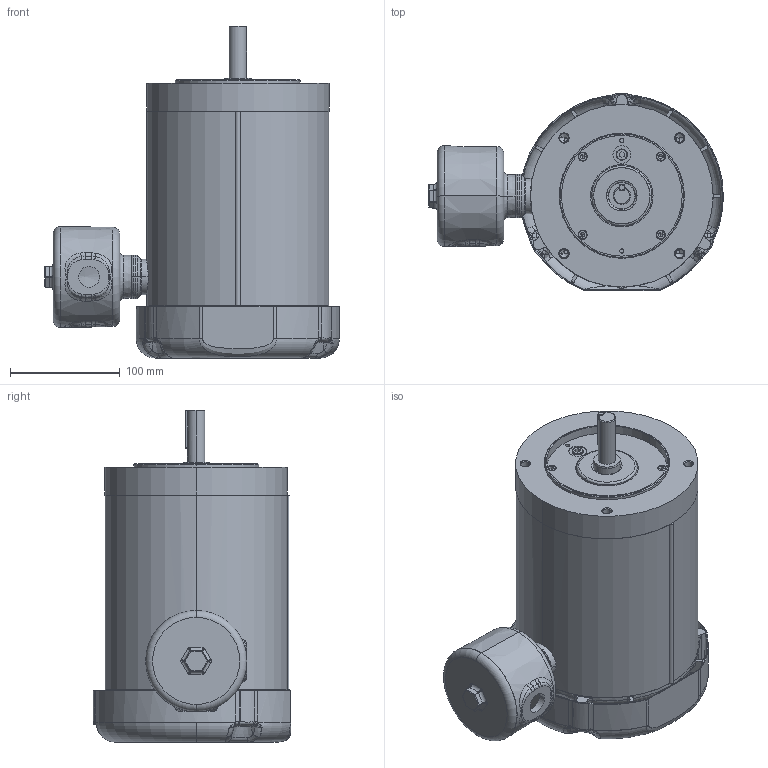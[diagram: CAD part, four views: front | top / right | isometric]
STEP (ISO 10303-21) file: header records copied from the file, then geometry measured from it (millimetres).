
FILE_DESCRIPTION (( 'STEP AP203' ), '1' );
FILE_NAME ('607-0396-700_RevA.STEP', '2020-03-04T07:24:26', ( '' ), ( '' ), 'SwSTEP 2.0', 'SolidWorks 2018', '' );
FILE_SCHEMA (( 'CONFIG_CONTROL_DESIGN' ));
Length unit declared in the file: inch
Products named in the file (1): 607-0396-700_RevA
Bounding box: 269.09 x 180.34 x 303.06 mm (x, y, z)
Volume: 908263.3 mm3; surface area: 624900 mm2
Topology: 19 solids, 19 shells, 2888 faces, 6971 edges, 4077 vertices
Faces by surface type: bspline 974, cylinder 819, plane 472, torus 306, cone 303, sphere 14
Entity records: 122038 total; most frequent: CARTESIAN_POINT 62081, ORIENTED_EDGE 13698, DIRECTION 11233, EDGE_CURVE 6849, AXIS2_PLACEMENT_3D 4803, VERTEX_POINT 4077, EDGE_LOOP 3106, ADVANCED_FACE 2888
